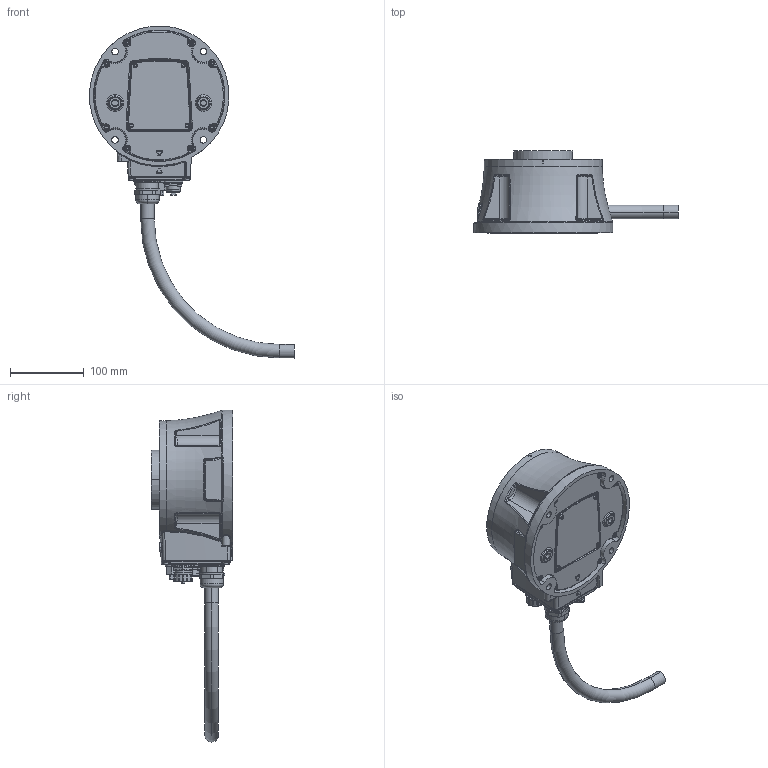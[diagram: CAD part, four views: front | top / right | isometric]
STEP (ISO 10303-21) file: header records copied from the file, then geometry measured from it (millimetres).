
FILE_DESCRIPTION(/* description */ ('AP214 STEP file'),/* implementation_level */ '2;1');
FILE_NAME(/* name */ '1300_model_air-c001_stp',/* time_stamp */ '2023-03-07T19:15:30+09:00',/* author */ (''),/* organization */ (''),/* preprocessor_version */ '7.2.1.0',/* originating_system */ 'Elysium Co. Ltd. STEP Translator',/* authorisation */ '');
FILE_SCHEMA (('AUTOMOTIVE_DESIGN'));
Products named in the file (1): 1300_MODEL_AIR-C001
Bounding box: 278.78 x 111.5 x 451.75 mm (x, y, z)
Volume: 2577311.7 mm3; surface area: 167696 mm2
Topology: 1 solids, 1 shells, 1442 faces, 3403 edges, 2037 vertices
Faces by surface type: plane 455, cylinder 391, torus 240, cone 166, bspline 166, sphere 16, extrusion 8
Entity records: 46602 total; most frequent: CARTESIAN_POINT 18204, ORIENTED_EDGE 6794, EDGE_CURVE 3397, DIRECTION 2880, AXIS2_PLACEMENT_3D 2674, VERTEX_POINT 2037, EDGE_LOOP 1538, ADVANCED_FACE 1442
